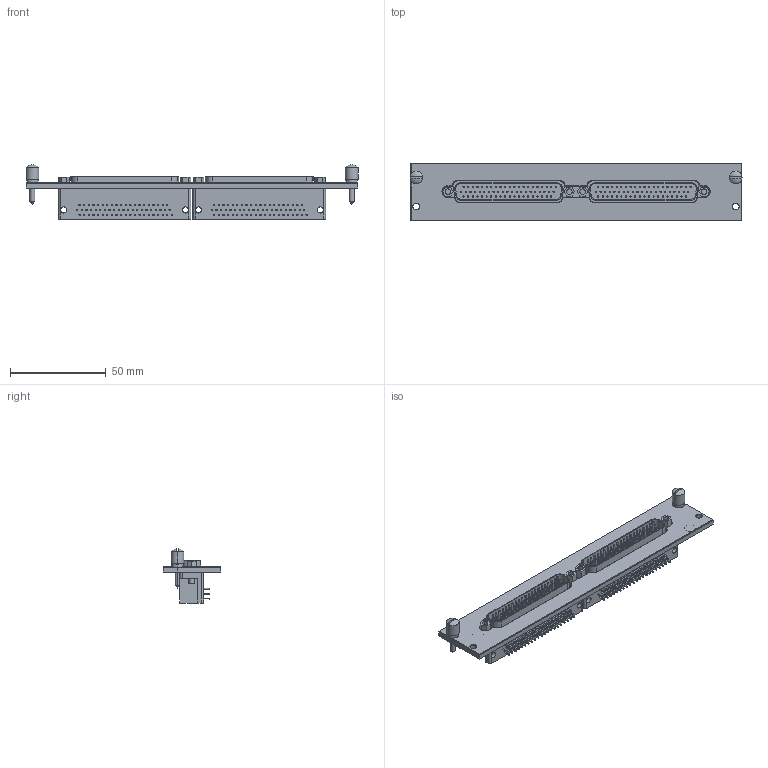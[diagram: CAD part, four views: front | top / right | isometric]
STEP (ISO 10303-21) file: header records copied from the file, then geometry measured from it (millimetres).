
FILE_DESCRIPTION((''),'2;1');
FILE_NAME('CU_SCXI-1166','2009-11-25T',('jjorden'),(''),'PRO/ENGINEER BY PARAMETRIC TECHNOLOGY CORPORATION, 2006080','PRO/ENGINEER BY PARAMETRIC TECHNOLOGY CORPORATION, 2006080','');
FILE_SCHEMA(('CONFIG_CONTROL_DESIGN'));
Length unit declared in the file: inch
Products named in the file (1): CU_SCXI-1166
Bounding box: 173.51 x 30.18 x 28.33 mm (x, y, z)
Volume: 38697.3 mm3; surface area: 24114.3 mm2
Topology: 1 solids, 1 shells, 1023 faces, 2214 edges, 1470 vertices
Faces by surface type: cylinder 610, plane 401, cone 8, sphere 4
Entity records: 28492 total; most frequent: DIRECTION 5516, CARTESIAN_POINT 4703, ORIENTED_EDGE 4420, AXIS2_PLACEMENT_3D 2283, EDGE_CURVE 2210, VERTEX_POINT 1470, EDGE_LOOP 1318, CIRCLE 1260
